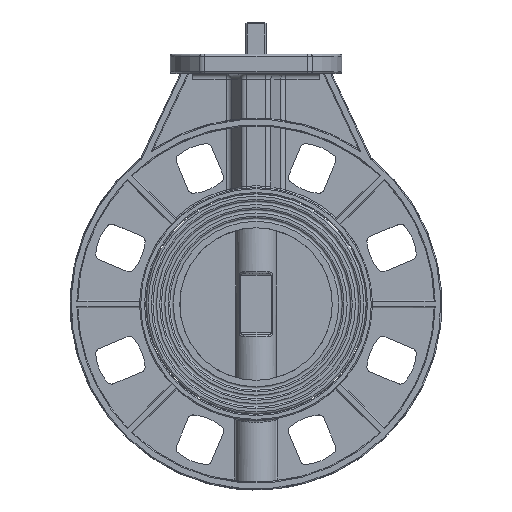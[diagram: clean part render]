
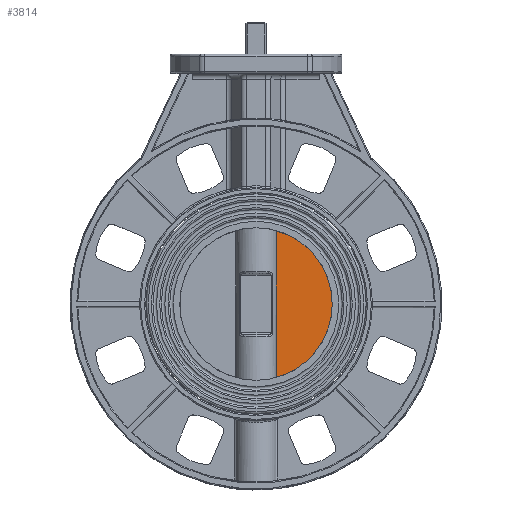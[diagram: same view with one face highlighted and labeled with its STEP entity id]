
A CAD part, top view. The second image highlights one B-rep face of the part: STEP entity #3814.
In plain terms, the highlighted planar face has unit normal (0, 0, 1).
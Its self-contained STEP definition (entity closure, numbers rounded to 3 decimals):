
#3814=ADVANCED_FACE('',(#8077),#8079,.T.);
#8077=FACE_BOUND('',#8078,.T.);
#8078=EDGE_LOOP('',(#10674,#10675,#10676));
#8079=PLANE('',#8080);
#8080=AXIS2_PLACEMENT_3D('',#8081,#8082,#8083);
#8081=CARTESIAN_POINT('',(0.,0.,2.5));
#8082=DIRECTION('',(0.,0.,1.));
#8083=DIRECTION('',(1.,0.,0.));
#10674=ORIENTED_EDGE('',*,*,#11830,.F.);
#10675=ORIENTED_EDGE('',*,*,#11820,.F.);
#10676=ORIENTED_EDGE('',*,*,#11824,.F.);
#11820=EDGE_CURVE('',#13574,#13575,#13576,.T.);
#11824=EDGE_CURVE('',#13581,#13574,#13583,.T.);
#11830=EDGE_CURVE('',#13575,#13581,#13594,.T.);
#13574=VERTEX_POINT('',#28345);
#13575=VERTEX_POINT('',#28346);
#13576=CIRCLE('',#28347,40.);
#13581=VERTEX_POINT('',#28525);
#13583=CIRCLE('',#28694,40.);
#13594=LINE('',#29051,#29052);
#28345=CARTESIAN_POINT('',(40.,0.,2.5));
#28346=CARTESIAN_POINT('',(10.712,-38.539,2.5));
#28347=AXIS2_PLACEMENT_3D('',#28348,#28349,#28350);
#28348=CARTESIAN_POINT('',(0.,0.,2.5));
#28349=DIRECTION('',(0.,0.,-1.));
#28350=DIRECTION('',(1.,0.,0.));
#28525=CARTESIAN_POINT('',(10.712,38.539,2.5));
#28694=AXIS2_PLACEMENT_3D('',#28695,#28696,#28697);
#28695=CARTESIAN_POINT('',(0.,0.,2.5));
#28696=DIRECTION('',(0.,0.,-1.));
#28697=DIRECTION('',(0.268,0.963,0.));
#29051=CARTESIAN_POINT('',(10.712,-38.539,2.5));
#29052=VECTOR('',#29053,1.);
#29053=DIRECTION('',(0.,1.,0.));
